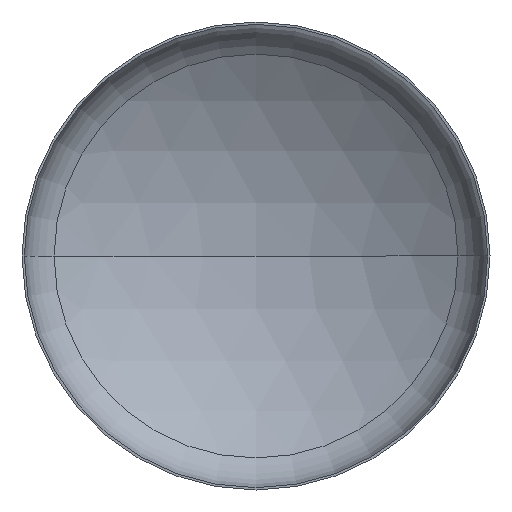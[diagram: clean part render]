
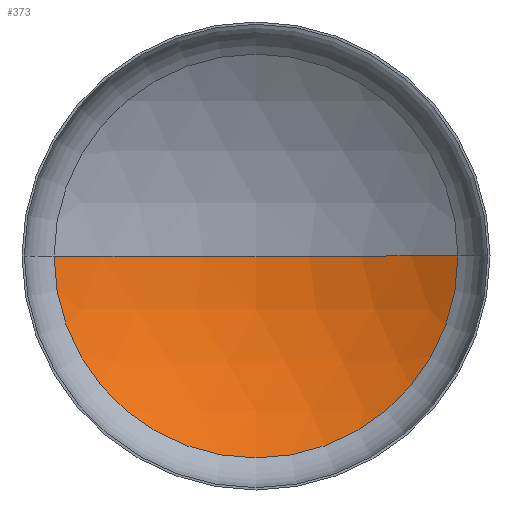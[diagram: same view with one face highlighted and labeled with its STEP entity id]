
A CAD part, front view. The second image highlights one B-rep face of the part: STEP entity #373.
In plain terms, the highlighted spherical face has radius 478.8 mm.
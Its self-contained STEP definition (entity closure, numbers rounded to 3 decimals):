
#18 = CIRCLE ( 'NONE', #354, 478.8 ) ;
#25 = CIRCLE ( 'NONE', #368, 478.8 ) ;
#41 = CARTESIAN_POINT ( 'NONE',  ( 0., -327.8, 0. ) ) ;
#56 = DIRECTION ( 'NONE',  ( 1., 0., 0. ) ) ;
#63 = DIRECTION ( 'NONE',  ( -1., 0., 0. ) ) ;
#66 = EDGE_CURVE ( 'NONE', #84, #370, #69, .T. ) ;
#69 = CIRCLE ( 'NONE', #272, 261.462 ) ;
#82 = ORIENTED_EDGE ( 'NONE', *, *, #66, .F. ) ;
#83 = EDGE_CURVE ( 'NONE', #84, #298, #18, .T. ) ;
#84 = VERTEX_POINT ( 'NONE', #183 ) ;
#121 = DIRECTION ( 'NONE',  ( 0., 1., 0. ) ) ;
#151 = ORIENTED_EDGE ( 'NONE', *, *, #83, .T. ) ;
#156 = ORIENTED_EDGE ( 'NONE', *, *, #224, .F. ) ;
#166 = DIRECTION ( 'NONE',  ( 0., 0., -1. ) ) ;
#183 = CARTESIAN_POINT ( 'NONE',  ( 261.462, 73.307, 0. ) ) ;
#196 = DIRECTION ( 'NONE',  ( 0., 0., 1. ) ) ;
#201 = AXIS2_PLACEMENT_3D ( 'NONE', #41, #196, #387 ) ;
#217 = CARTESIAN_POINT ( 'NONE',  ( 0., -327.8, 0. ) ) ;
#224 = EDGE_CURVE ( 'NONE', #370, #298, #25, .T. ) ;
#230 = SPHERICAL_SURFACE ( 'NONE', #201, 478.8 ) ;
#234 = CARTESIAN_POINT ( 'NONE',  ( -261.462, 73.307, 0. ) ) ;
#271 = EDGE_LOOP ( 'NONE', ( #82, #151, #156 ) ) ;
#272 = AXIS2_PLACEMENT_3D ( 'NONE', #277, #121, #371 ) ;
#277 = CARTESIAN_POINT ( 'NONE',  ( 0., 73.307, 0. ) ) ;
#297 = CARTESIAN_POINT ( 'NONE',  ( 0., 151., 0. ) ) ;
#298 = VERTEX_POINT ( 'NONE', #297 ) ;
#354 = AXIS2_PLACEMENT_3D ( 'NONE', #376, #372, #56 ) ;
#368 = AXIS2_PLACEMENT_3D ( 'NONE', #217, #166, #63 ) ;
#370 = VERTEX_POINT ( 'NONE', #234 ) ;
#371 = DIRECTION ( 'NONE',  ( -1., 0., 0. ) ) ;
#372 = DIRECTION ( 'NONE',  ( 0., 0., 1. ) ) ;
#373 = ADVANCED_FACE ( 'NONE', ( #389 ), #230, .F. ) ;
#376 = CARTESIAN_POINT ( 'NONE',  ( 0., -327.8, 0. ) ) ;
#387 = DIRECTION ( 'NONE',  ( -1., 0., 0. ) ) ;
#389 = FACE_OUTER_BOUND ( 'NONE', #271, .T. ) ;
